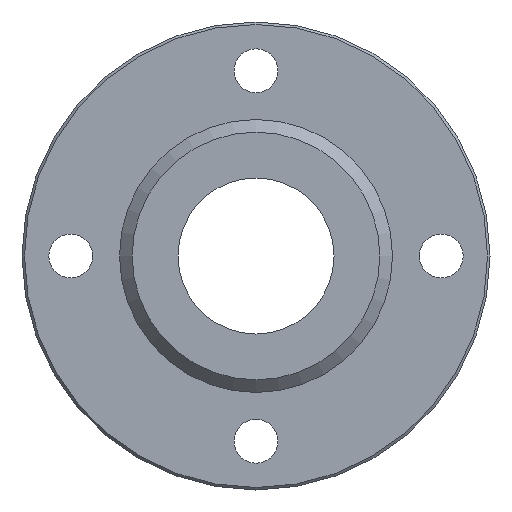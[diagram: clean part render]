
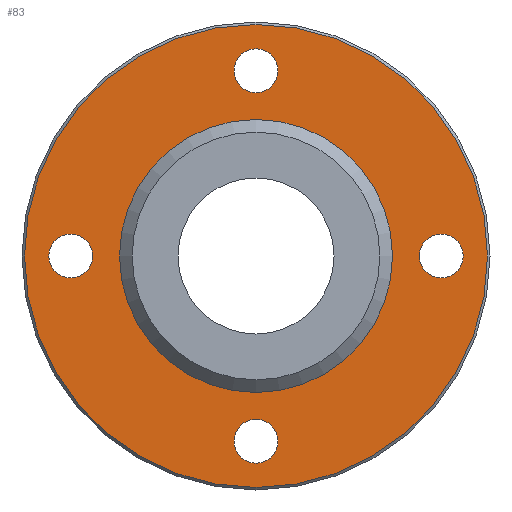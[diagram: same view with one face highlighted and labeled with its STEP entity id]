
A CAD part, left-side view. The second image highlights one B-rep face of the part: STEP entity #83.
In plain terms, the highlighted planar face has unit normal (-1, 0, 0).
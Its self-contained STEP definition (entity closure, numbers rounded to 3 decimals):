
#83=ADVANCED_FACE('',(#124,#125,#126,#127,#128,#129),#130,.F.);
#124=FACE_BOUND('',#204,.T.);
#125=FACE_BOUND('',#205,.T.);
#126=FACE_BOUND('',#206,.T.);
#127=FACE_BOUND('',#207,.T.);
#128=FACE_OUTER_BOUND('',#208,.T.);
#129=FACE_BOUND('',#209,.T.);
#130=PLANE('',#210);
#204=EDGE_LOOP('',(#300));
#205=EDGE_LOOP('',(#301));
#206=EDGE_LOOP('',(#302));
#207=EDGE_LOOP('',(#303));
#208=EDGE_LOOP('',(#304));
#209=EDGE_LOOP('',(#305));
#210=AXIS2_PLACEMENT_3D('',#306,#307,#308);
#300=ORIENTED_EDGE('',*,*,#399,.T.);
#301=ORIENTED_EDGE('',*,*,#400,.T.);
#302=ORIENTED_EDGE('',*,*,#401,.T.);
#303=ORIENTED_EDGE('',*,*,#402,.T.);
#304=ORIENTED_EDGE('',*,*,#403,.T.);
#305=ORIENTED_EDGE('',*,*,#396,.T.);
#306=CARTESIAN_POINT('',(-9.0,23.746,0.0));
#307=DIRECTION('',(1.0,0.0,0.0));
#308=DIRECTION('',(0.0,0.0,-1.0));
#396=EDGE_CURVE('',#432,#432,#433,.T.);
#399=EDGE_CURVE('',#438,#438,#439,.T.);
#400=EDGE_CURVE('',#440,#440,#441,.T.);
#401=EDGE_CURVE('',#442,#442,#443,.T.);
#402=EDGE_CURVE('',#444,#444,#445,.T.);
#403=EDGE_CURVE('',#446,#446,#447,.T.);
#432=VERTEX_POINT('',#488);
#433=CIRCLE('',#489,14.0);
#438=VERTEX_POINT('',#494);
#439=CIRCLE('',#495,2.25);
#440=VERTEX_POINT('',#496);
#441=CIRCLE('',#497,2.25);
#442=VERTEX_POINT('',#498);
#443=CIRCLE('',#499,2.25);
#444=VERTEX_POINT('',#500);
#445=CIRCLE('',#501,2.25);
#446=VERTEX_POINT('',#502);
#447=CIRCLE('',#503,23.746);
#488=CARTESIAN_POINT('',(-9.0,0.,-14.0));
#489=AXIS2_PLACEMENT_3D('',#552,#553,#554);
#494=CARTESIAN_POINT('',(-9.0,0.0,16.75));
#495=AXIS2_PLACEMENT_3D('',#561,#562,#563);
#496=CARTESIAN_POINT('',(-9.0,-19.0,-2.25));
#497=AXIS2_PLACEMENT_3D('',#564,#565,#566);
#498=CARTESIAN_POINT('',(-9.0,0.,-21.25));
#499=AXIS2_PLACEMENT_3D('',#567,#568,#569);
#500=CARTESIAN_POINT('',(-9.0,19.0,-2.25));
#501=AXIS2_PLACEMENT_3D('',#570,#571,#572);
#502=CARTESIAN_POINT('',(-9.0,0.,23.746));
#503=AXIS2_PLACEMENT_3D('',#573,#574,#575);
#552=CARTESIAN_POINT('',(-9.0,0.,0.0));
#553=DIRECTION('',(1.0,0.0,0.0));
#554=DIRECTION('',(0.0,0.0,-1.0));
#561=CARTESIAN_POINT('',(-9.0,0.0,19.0));
#562=DIRECTION('',(1.0,0.0,0.0));
#563=DIRECTION('',(0.0,0.0,-1.0));
#564=CARTESIAN_POINT('',(-9.0,-19.0,0.));
#565=DIRECTION('',(1.0,0.0,0.0));
#566=DIRECTION('',(0.0,0.0,-1.0));
#567=CARTESIAN_POINT('',(-9.0,0.,-19.0));
#568=DIRECTION('',(1.0,0.0,0.0));
#569=DIRECTION('',(0.0,0.0,-1.0));
#570=CARTESIAN_POINT('',(-9.0,19.0,0.0));
#571=DIRECTION('',(1.0,0.0,0.0));
#572=DIRECTION('',(0.0,0.0,-1.0));
#573=CARTESIAN_POINT('',(-9.0,0.,0.0));
#574=DIRECTION('',(-1.0,0.0,0.0));
#575=DIRECTION('',(0.0,0.0,1.0));
